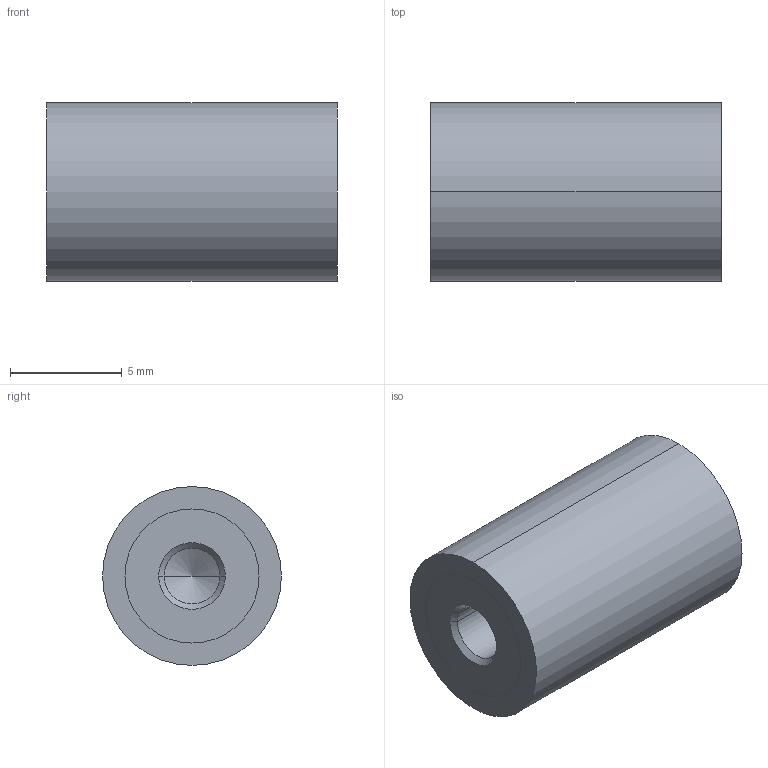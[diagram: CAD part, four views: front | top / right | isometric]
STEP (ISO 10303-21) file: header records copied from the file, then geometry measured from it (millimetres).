
FILE_DESCRIPTION (( 'STEP AP214' ), '1' );
FILE_NAME ('351-8-13-M3-EE-70.step', '2025-07-23T09:39:17', ( '' ), ( '' ), 'SwSTEP 2.0', 'SolidWorks 2022', '' );
FILE_SCHEMA (( 'AUTOMOTIVE_DESIGN' ));
Length unit declared in the file: millimetre
Products named in the file (1): 351-8-13-M3-EE-70
Bounding box: 13 x 8 x 8 mm (x, y, z)
Volume: 615.9 mm3; surface area: 481.8 mm2
Topology: 1 solids, 1 shells, 28 faces, 58 edges, 34 vertices
Faces by surface type: cylinder 14, cone 8, plane 6
Entity records: 844 total; most frequent: DIRECTION 144, CARTESIAN_POINT 117, ORIENTED_EDGE 108, AXIS2_PLACEMENT_3D 61, EDGE_CURVE 54, VERTEX_POINT 34, EDGE_LOOP 34, CIRCLE 32
